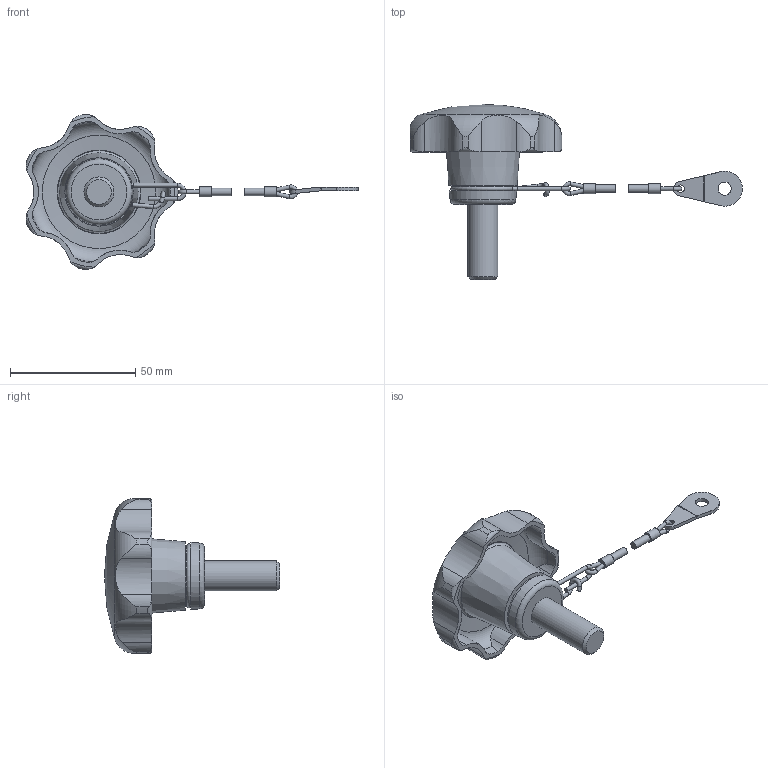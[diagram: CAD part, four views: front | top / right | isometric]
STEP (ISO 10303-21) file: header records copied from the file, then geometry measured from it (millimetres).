
FILE_DESCRIPTION( ( 'STEP AP203' ), '1' );
FILE_NAME( 'C:/Temp/Ganter_Step_05_03_2020/data/2_2/gn_6336_13/gn_6336_13_2/Star knob GN 6336.13-63-M12-30-H.stp', '2020-03-05T12:11:52', ( 'License CC BY-ND 4.0' ), ( 'CADENAS' ), ' ', 'PARTsolutions', ' ' );
FILE_SCHEMA( ( 'CONFIG_CONTROL_DESIGN' ) );
Length unit declared in the file: millimetre
Products named in the file (3): Star knob GN 6336.13-63-M12-30-H; _Star knob GN 6336.13-63-M12-30-H 6; _Star knob GN 111.2-200-14 h2
Assembly tree (2 placements, depth 2):
  Star knob GN 6336.13-63-M12-30-H
    _Star knob GN 6336.13-63-M12-30-H 6
    _Star knob GN 111.2-200-14 h2
Bounding box: 132.69 x 70 x 61.94 mm (x, y, z)
Volume: 45019.5 mm3; surface area: 14903.4 mm2
Topology: 2 solids, 2 shells, 140 faces, 380 edges, 246 vertices
Faces by surface type: cylinder 73, plane 35, torus 20, cone 11, sphere 1
Full cylindrical faces by diameter (mm): 1.6 x10, 3 x3, 4 x2, 5.3 x1, 12 x1, 22.3 x1
Entity records: 5224 total; most frequent: CARTESIAN_POINT 1831, DIRECTION 686, ORIENTED_EDGE 650, EDGE_CURVE 325, AXIS2_PLACEMENT_3D 295, VERTEX_POINT 234, EDGE_LOOP 192, FACE_OUTER_BOUND 170
